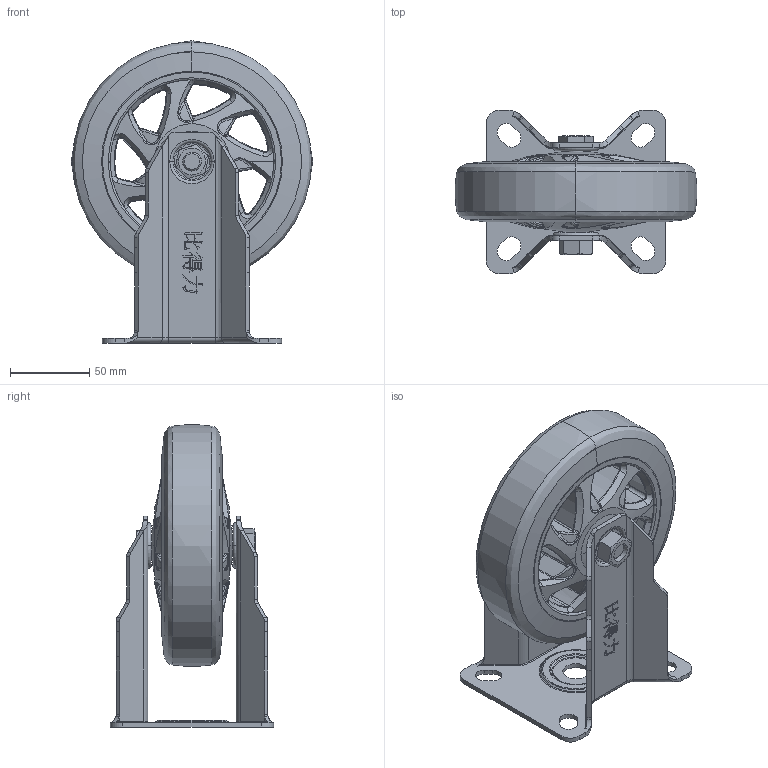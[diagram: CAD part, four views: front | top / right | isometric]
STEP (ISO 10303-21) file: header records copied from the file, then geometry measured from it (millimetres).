
FILE_DESCRIPTION (( 'STEP AP203' ), '1' );
FILE_NAME ('6渡嘐隅.STEP', '2025-01-03T08:44:10', ( '' ), ( '' ), 'SwSTEP 2.0', 'SolidWorks 2023', '' );
FILE_SCHEMA (( 'CONFIG_CONTROL_DESIGN' ));
Length unit declared in the file: millimetre
Products named in the file (7): 复件 复件 (2) ^轴; 6寸固定; 复件 ^6寸轮子; 轴; 复件 复件 (3) ^轴; 6寸jia; 复件 复件 (5)^6寸轮子
Assembly tree (6 placements, depth 3):
  6寸固定
    复件 ^6寸轮子
    复件 复件 (5)^6寸轮子
    6寸jia
    轴
      复件 复件 (2) ^轴
      复件 复件 (3) ^轴
Bounding box: 152.19 x 103 x 190.6 mm (x, y, z)
Volume: 821870.7 mm3; surface area: 177871.3 mm2
Topology: 5 solids, 5 shells, 1101 faces, 2813 edges, 1719 vertices
Faces by surface type: bspline 547, plane 304, cylinder 116, cone 94, torus 40
Entity records: 62779 total; most frequent: CARTESIAN_POINT 40127, ORIENTED_EDGE 5610, DIRECTION 2975, EDGE_CURVE 2805, VERTEX_POINT 1719, B_SPLINE_CURVE_WITH_KNOTS 1251, EDGE_LOOP 1162, FACE_OUTER_BOUND 1101
